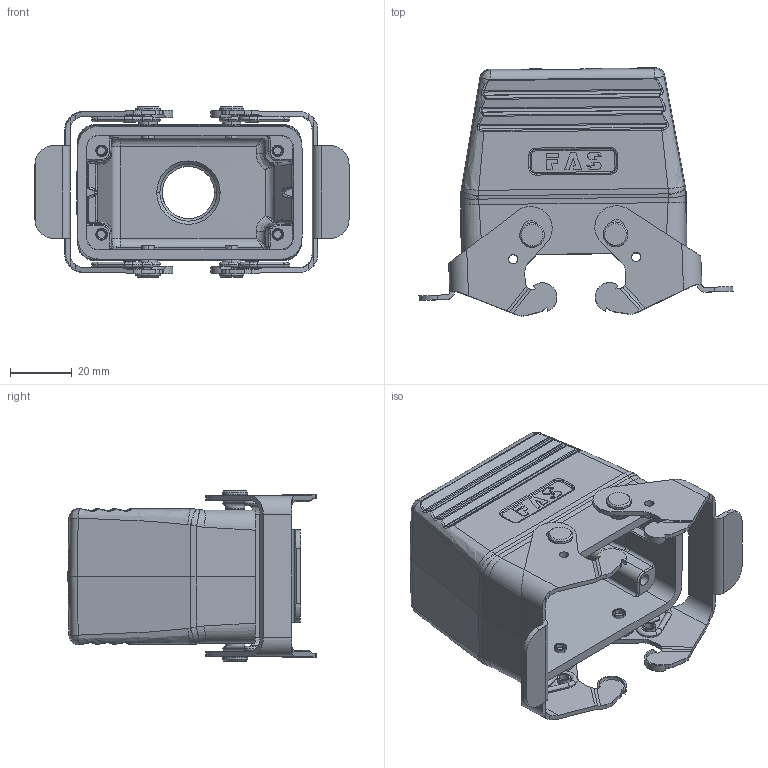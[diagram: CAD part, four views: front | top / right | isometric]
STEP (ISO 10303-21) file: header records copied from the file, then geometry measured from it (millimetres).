
FILE_DESCRIPTION (( 'STEP AP203' ), '1' );
FILE_NAME ('H10B-TBF-M20.STEP', '2020-11-20T06:44:13', ( '' ), ( '' ), 'SwSTEP 2.0', 'SolidWorks 2016', '' );
FILE_SCHEMA (( 'CONFIG_CONTROL_DESIGN' ));
Length unit declared in the file: millimetre
Products named in the file (6): H10B-TBF-M20; maoding; jinshushuangkou; H10B-TBF 俋褲 11-20; 24bcaixinshuangkou; tanhuang
Assembly tree (8 placements, depth 3):
  H10B-TBF-M20
    jinshushuangkou  x2
      24bcaixinshuangkou
      tanhuang
      maoding
    H10B-TBF 俋褲 11-20
Bounding box: 101.6 x 80.3 x 55 mm (x, y, z)
Volume: 68743.4 mm3; surface area: 41357.6 mm2
Topology: 11 solids, 11 shells, 847 faces, 2068 edges, 1283 vertices
Faces by surface type: cylinder 306, plane 282, bspline 211, cone 48
Entity records: 28695 total; most frequent: CARTESIAN_POINT 14567, ORIENTED_EDGE 3106, DIRECTION 2359, EDGE_CURVE 1553, VERTEX_POINT 957, AXIS2_PLACEMENT_3D 826, LINE 707, VECTOR 707
